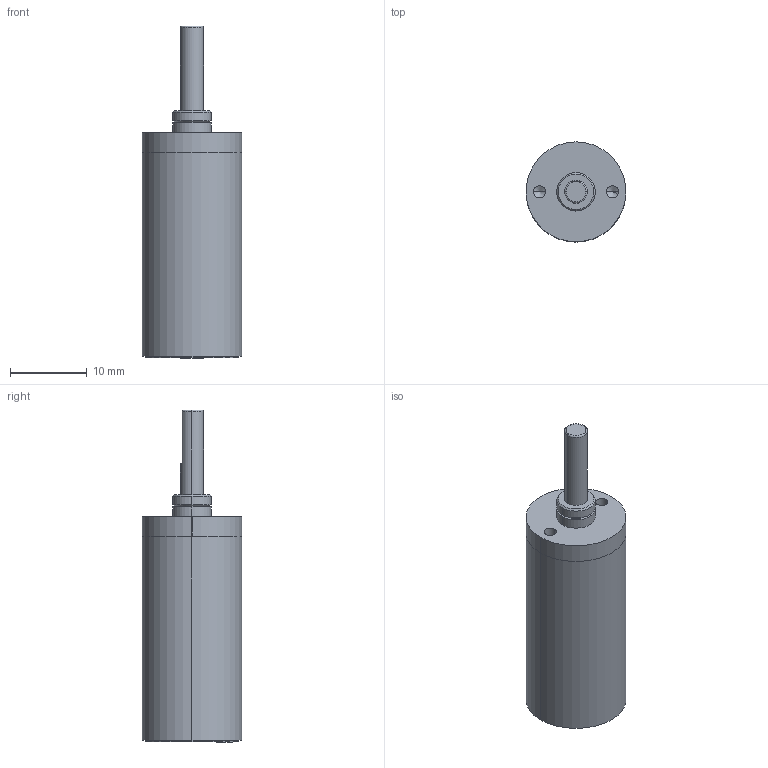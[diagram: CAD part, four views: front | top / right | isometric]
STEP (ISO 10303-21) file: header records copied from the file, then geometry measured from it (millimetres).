
FILE_DESCRIPTION (( 'STEP AP203' ), '1' );
FILE_NAME ('IG-13(I)-6stage.STEP', '2023-03-27T02:57:40', ( '' ), ( '' ), 'SwSTEP 2.0', 'SolidWorks 2019', '' );
FILE_SCHEMA (( 'CONFIG_CONTROL_DESIGN' ));
Length unit declared in the file: millimetre
Products named in the file (1): IG-13(I)-6stage
Bounding box: 13 x 13 x 43.2 mm (x, y, z)
Volume: 4278.1 mm3; surface area: 2094.7 mm2
Topology: 2 solids, 2 shells, 53 faces, 112 edges, 69 vertices
Faces by surface type: cylinder 28, plane 14, cone 8, torus 3
Entity records: 1514 total; most frequent: DIRECTION 281, CARTESIAN_POINT 249, ORIENTED_EDGE 216, AXIS2_PLACEMENT_3D 121, EDGE_CURVE 108, VERTEX_POINT 69, EDGE_LOOP 67, CIRCLE 67
